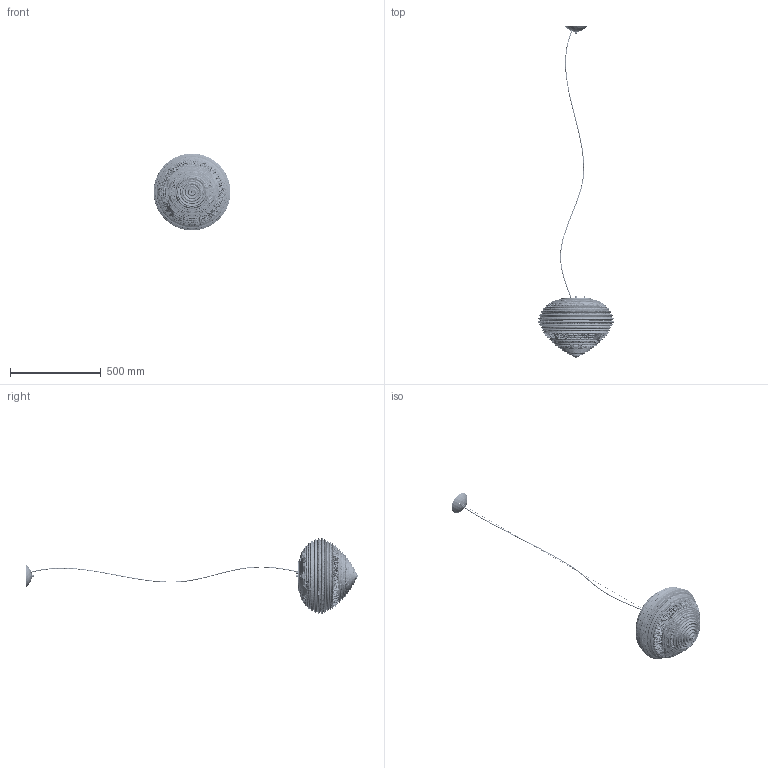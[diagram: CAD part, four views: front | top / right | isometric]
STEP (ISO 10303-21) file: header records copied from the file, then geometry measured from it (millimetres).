
FILE_DESCRIPTION (( 'STEP AP203' ), '1' );
FILE_NAME ('SPIRISP 37 -.STEP', '2021-04-02T08:54:27', ( '' ), ( '' ), 'SwSTEP 2.0', 'SolidWorks 2020', '' );
FILE_SCHEMA (( 'CONFIG_CONTROL_DESIGN' ));
Length unit declared in the file: millimetre
Products named in the file (36): VSPSPIRITxx REV_5; TSPEI 3X12_M4x8; CP5015-4; Sferetta bloccacavo; MSP160E271xx; Senza lampadina; ROSONE LENTE CON FORO; CMBLOCNOUR5GR; lampadina da rendering; NIPPLE 5016; OCCHIELLO DI TERRA x M4; D.E. M4; CAVO ACCIAIO L.1500; RONDELLA 5085 (RONDELLA IN PLASTICA); CMNIPELF2NI; BICCHIERINO PER E27; CMLAMASP16GR; T.C.IMP. A CROCE 4x8; E27 IN METALLO; PASSACAVO 5101; BLOCCACAVO 5462; CMLEVASPLUCCPGR; Canna filettata 30; CMCOPSPLUCPICGR; hex thin nut fine gradeab_iso_Hexagon Nut ISO - 8675 - M10 x 1.0 - N; CMPERNSPLUCCIGR; Bulbo x render; RIVETTO; SPIRISP  37    -; TSPEI 4X25_M4x8; CMSCALU1E27CEGR; CIECO M4_Standard; STAFFA; M3x4 PC; ROLENTED1; Parte1^SPSPIRIT37
Assembly tree (41 placements, depth 4):
  RIVETTO
  SPIRISP  37    -
    MSP160E271xx
      CMSCALU1E27CEGR
      CMLEVASPLUCCPGR
      hex thin nut fine gradeab_iso_Hexagon Nut ISO - 8675 - M10 x 1.0 - N
      CMLAMASP16GR  x3
      CMCOPSPLUCPICGR
      TSPEI 4X25_M4x8  x2
      PASSACAVO 5101
      D.E. M4
      CIECO M4_Standard  x2
      TSPEI 3X12_M4x8  x2
      RONDELLA 5085 (RONDELLA IN PLASTICA)
      CMNIPELF2NI
      CP5015-4
      CMPERNSPLUCCIGR
      Sferetta bloccacavo
      M3x4 PC
    VSPSPIRITxx REV_5
    ROLENTED1
      ROSONE LENTE CON FORO
      STAFFA
      NIPPLE 5016
      BLOCCACAVO 5462
      OCCHIELLO DI TERRA x M4  x2
      T.C.IMP. A CROCE 4x8
      Canna filettata 30
      CMNIPELF2NI
      CMBLOCNOUR5GR
    CAVO ACCIAIO L.1500
    lampadina da rendering
      Senza lampadina
        BICCHIERINO PER E27
        Bulbo x render
        E27 IN METALLO
    Parte1^SPSPIRIT37
Bounding box: 422.14 x 1827.92 x 422.13 mm (x, y, z)
Volume: 350208 mm3; surface area: 1345839.1 mm2
Topology: 40 solids, 40 shells, 925 faces, 2231 edges, 1388 vertices
Faces by surface type: plane 329, cylinder 305, cone 106, torus 95, bspline 66, sphere 24
Entity records: 33644 total; most frequent: CARTESIAN_POINT 10848, DIRECTION 4099, ORIENTED_EDGE 3796, EDGE_CURVE 1898, AXIS2_PLACEMENT_3D 1622, VERTEX_POINT 1183, EDGE_LOOP 921, LINE 855
